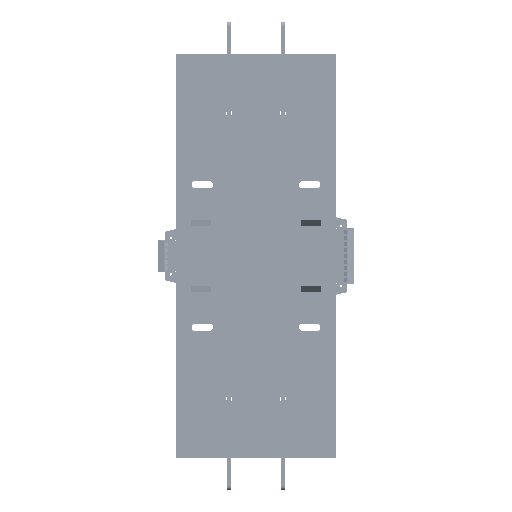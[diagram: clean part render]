
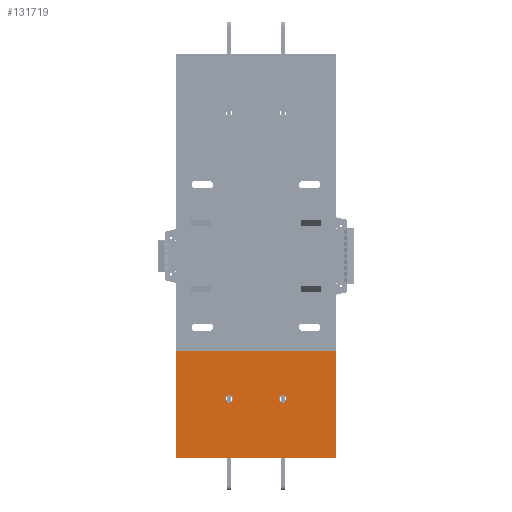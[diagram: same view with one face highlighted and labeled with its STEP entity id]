
A CAD part, front view. The second image highlights one B-rep face of the part: STEP entity #131719.
In plain terms, the highlighted planar face has unit normal (0, -1, 0).
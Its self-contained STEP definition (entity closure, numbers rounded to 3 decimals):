
#1147 = CARTESIAN_POINT ( 'NONE',  ( -2514.441, 536.309, -80. ) ) ;
#2278 = EDGE_CURVE ( 'NONE', #164940, #103730, #36867, .T. ) ;
#4277 = CARTESIAN_POINT ( 'NONE',  ( -2601.291, 536.309, -120. ) ) ;
#10426 = AXIS2_PLACEMENT_3D ( 'NONE', #42032, #83046, #202252 ) ;
#12467 = DIRECTION ( 'NONE',  ( 1., 0., 0. ) ) ;
#13042 = FACE_BOUND ( 'NONE', #176196, .T. ) ;
#13643 = VECTOR ( 'NONE', #184647, 1000. ) ;
#16502 = FACE_OUTER_BOUND ( 'NONE', #208986, .T. ) ;
#20363 = CARTESIAN_POINT ( 'NONE',  ( -2556.291, 536.309, -120. ) ) ;
#22267 = ORIENTED_EDGE ( 'NONE', *, *, #177439, .F. ) ;
#24928 = DIRECTION ( 'NONE',  ( -1., 0., 0. ) ) ;
#25987 = CARTESIAN_POINT ( 'NONE',  ( -2649.441, 536.309, -170. ) ) ;
#28089 = VECTOR ( 'NONE', #24928, 1000. ) ;
#29460 = DIRECTION ( 'NONE',  ( 0., 0., -1. ) ) ;
#30755 = AXIS2_PLACEMENT_3D ( 'NONE', #203944, #67756, #142829 ) ;
#35570 = ORIENTED_EDGE ( 'NONE', *, *, #114890, .T. ) ;
#35918 = DIRECTION ( 'NONE',  ( 1., 0., 0. ) ) ;
#36867 = CIRCLE ( 'NONE', #116391, 3.15 ) ;
#41237 = ORIENTED_EDGE ( 'NONE', *, *, #2278, .F. ) ;
#41954 = LINE ( 'NONE', #116971, #28089 ) ;
#42032 = CARTESIAN_POINT ( 'NONE',  ( -2559.441, 536.309, -120. ) ) ;
#44405 = ORIENTED_EDGE ( 'NONE', *, *, #194747, .F. ) ;
#45041 = CARTESIAN_POINT ( 'NONE',  ( -2649.441, 536.309, -80. ) ) ;
#45319 = DIRECTION ( 'NONE',  ( 1., 0., 0. ) ) ;
#48292 = LINE ( 'NONE', #65404, #13643 ) ;
#51086 = VERTEX_POINT ( 'NONE', #20363 ) ;
#51647 = AXIS2_PLACEMENT_3D ( 'NONE', #120302, #181661, #45319 ) ;
#55240 = CARTESIAN_POINT ( 'NONE',  ( -2514.441, 536.309, -170. ) ) ;
#59088 = ORIENTED_EDGE ( 'NONE', *, *, #81678, .T. ) ;
#65404 = CARTESIAN_POINT ( 'NONE',  ( -2514.441, 536.309, -170. ) ) ;
#67756 = DIRECTION ( 'NONE',  ( 0., 1., 0. ) ) ;
#70099 = CARTESIAN_POINT ( 'NONE',  ( -2559.441, 536.309, -120. ) ) ;
#72173 = CARTESIAN_POINT ( 'NONE',  ( -2604.441, 536.309, -120. ) ) ;
#81678 = EDGE_CURVE ( 'NONE', #110996, #207223, #90730, .T. ) ;
#82555 = AXIS2_PLACEMENT_3D ( 'NONE', #70099, #104005, #35918 ) ;
#83046 = DIRECTION ( 'NONE',  ( 0., -1., 0. ) ) ;
#85322 = VECTOR ( 'NONE', #12467, 1000. ) ;
#86082 = CIRCLE ( 'NONE', #10426, 3.15 ) ;
#88900 = ORIENTED_EDGE ( 'NONE', *, *, #144683, .T. ) ;
#90730 = LINE ( 'NONE', #209894, #120510 ) ;
#103700 = VERTEX_POINT ( 'NONE', #55240 ) ;
#103730 = VERTEX_POINT ( 'NONE', #4277 ) ;
#104005 = DIRECTION ( 'NONE',  ( 0., -1., 0. ) ) ;
#110996 = VERTEX_POINT ( 'NONE', #45041 ) ;
#111909 = VERTEX_POINT ( 'NONE', #1147 ) ;
#114190 = CARTESIAN_POINT ( 'NONE',  ( -2607.591, 536.309, -120. ) ) ;
#114890 = EDGE_CURVE ( 'NONE', #111909, #110996, #41954, .T. ) ;
#116391 = AXIS2_PLACEMENT_3D ( 'NONE', #72173, #167470, #143613 ) ;
#116971 = CARTESIAN_POINT ( 'NONE',  ( -2649.441, 536.309, -80. ) ) ;
#120302 = CARTESIAN_POINT ( 'NONE',  ( -2604.441, 536.309, -120. ) ) ;
#120510 = VECTOR ( 'NONE', #29460, 1000. ) ;
#130524 = CARTESIAN_POINT ( 'NONE',  ( -2649.441, 536.309, -170. ) ) ;
#131719 = ADVANCED_FACE ( 'NONE', ( #13042, #210642, #16502 ), #180089, .F. ) ;
#133425 = CIRCLE ( 'NONE', #82555, 3.15 ) ;
#142829 = DIRECTION ( 'NONE',  ( -1., 0., 0. ) ) ;
#143613 = DIRECTION ( 'NONE',  ( 1., 0., 0. ) ) ;
#144683 = EDGE_CURVE ( 'NONE', #103700, #111909, #48292, .T. ) ;
#147419 = ORIENTED_EDGE ( 'NONE', *, *, #185820, .T. ) ;
#154000 = ORIENTED_EDGE ( 'NONE', *, *, #210994, .F. ) ;
#154197 = CARTESIAN_POINT ( 'NONE',  ( -2562.591, 536.309, -120. ) ) ;
#158678 = CIRCLE ( 'NONE', #51647, 3.15 ) ;
#164940 = VERTEX_POINT ( 'NONE', #114190 ) ;
#167470 = DIRECTION ( 'NONE',  ( 0., -1., 0. ) ) ;
#170394 = VERTEX_POINT ( 'NONE', #154197 ) ;
#176196 = EDGE_LOOP ( 'NONE', ( #22267, #41237 ) ) ;
#177439 = EDGE_CURVE ( 'NONE', #103730, #164940, #158678, .T. ) ;
#180089 = PLANE ( 'NONE',  #30755 ) ;
#181661 = DIRECTION ( 'NONE',  ( 0., -1., 0. ) ) ;
#184647 = DIRECTION ( 'NONE',  ( 0., 0., 1. ) ) ;
#185820 = EDGE_CURVE ( 'NONE', #207223, #103700, #209901, .T. ) ;
#194747 = EDGE_CURVE ( 'NONE', #170394, #51086, #86082, .T. ) ;
#202252 = DIRECTION ( 'NONE',  ( 1., 0., 0. ) ) ;
#203944 = CARTESIAN_POINT ( 'NONE',  ( -2649.441, 536.309, -170. ) ) ;
#207223 = VERTEX_POINT ( 'NONE', #130524 ) ;
#207946 = EDGE_LOOP ( 'NONE', ( #154000, #44405 ) ) ;
#208986 = EDGE_LOOP ( 'NONE', ( #59088, #147419, #88900, #35570 ) ) ;
#209894 = CARTESIAN_POINT ( 'NONE',  ( -2649.441, 536.309, -170. ) ) ;
#209901 = LINE ( 'NONE', #25987, #85322 ) ;
#210642 = FACE_BOUND ( 'NONE', #207946, .T. ) ;
#210994 = EDGE_CURVE ( 'NONE', #51086, #170394, #133425, .T. ) ;
